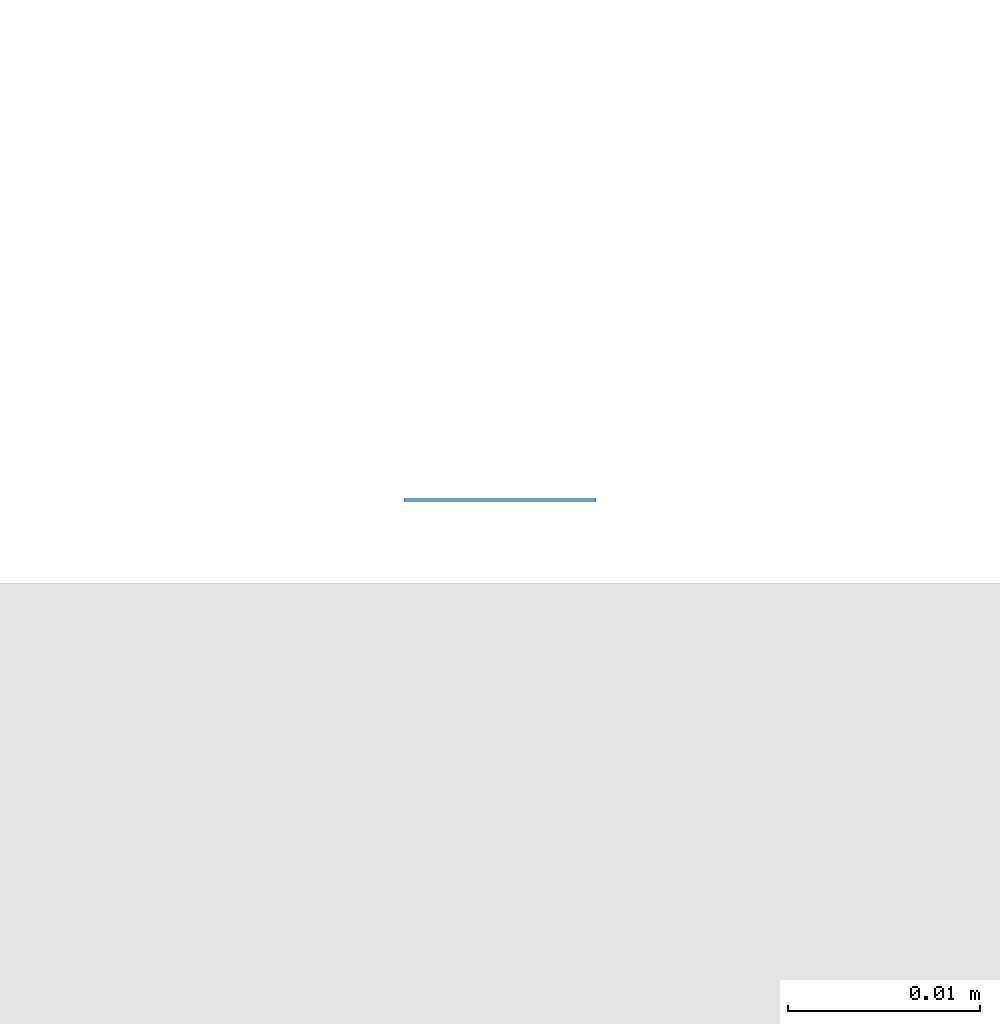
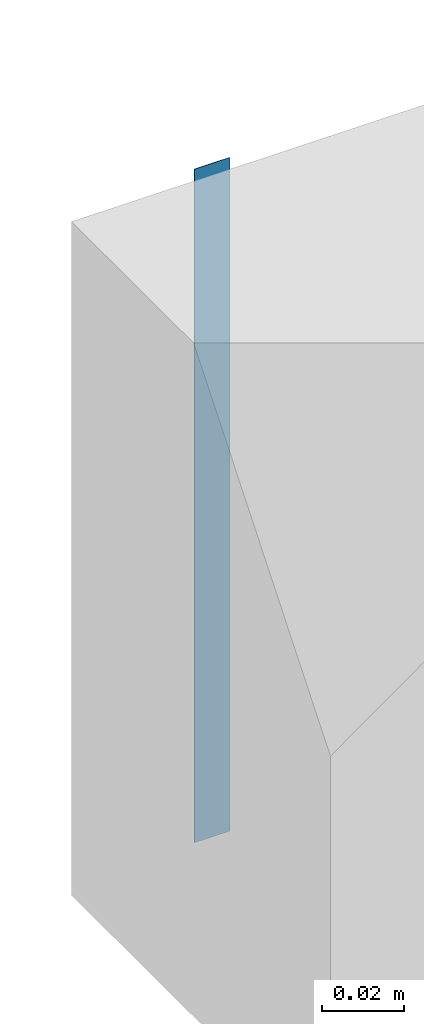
# One storey, part 1 of 3: 1 wall.
"""IFC2X3 building model written with IfcOpenShell, lengths in millimetres."""

import ifcopenshell
import ifcopenshell.guid

model = None  # the IFC model being written
_history = None  # IfcOwnerHistory: only IFC2X3 demands one
_inside = {}  # id of a spatial element -> (the spatial element, [elements in it])
_under = {}  # id of a project, library or spatial element -> (it, [spatial elements below it])
_declared = {}  # id of a project -> (the project, [libraries it declares])
_typed = {}  # id of a type object -> (the type object, [elements of that type])
_made_of = {}  # id of a material, layer set ... -> (it, [elements and type objects made of it])


def new_model(schema):
    """Start an empty IFC model of exactly this schema.

    Asked for "IFC4X3", IfcOpenShell would pick the latest addendum, in which some entities
    have other attributes; the version numbers below select the first issue.
    IFC2X3 requires an IfcOwnerHistory on every rooted entity: one is made here for all.
    """
    global model, _history
    if schema == "IFC4X3":
        model = ifcopenshell.file(schema_version=(4, 3, 0, 0))
    else:
        model = ifcopenshell.file(schema=schema)
    _inside.clear()
    _under.clear()
    _declared.clear()
    _typed.clear()
    _made_of.clear()
    _history = None
    if model.schema == "IFC2X3":
        org = make("IfcOrganization", Name="unknown")
        user = make(
            "IfcPersonAndOrganization",
            ThePerson=make("IfcPerson", FamilyName="unknown"),
            TheOrganization=org,
        )
        app = make(
            "IfcApplication",
            ApplicationDeveloper=org,
            Version="unknown",
            ApplicationFullName="unknown",
            ApplicationIdentifier="unknown",
        )
        _history = make(
            "IfcOwnerHistory",
            OwningUser=user,
            OwningApplication=app,
            ChangeAction="ADDED",
            CreationDate=0,
        )
    return model


def make(cls, **values):
    """One entity of the class cls with the attributes given. An attribute that is None is left unset."""
    return model.create_entity(
        cls, **{name: value for name, value in values.items() if value is not None}
    )


def entity(cls, *values):
    """Any entity or typed value of the class cls, its attributes in the order of the schema. None: left unset."""
    e = model.create_entity(cls)
    for i, value in enumerate(values):
        if value is not None:
            e[i] = value
    return e


def rooted(cls, **values):
    """An entity with a GlobalId (a new one), such as an element, a storey or a relation."""
    return make(cls, GlobalId=ifcopenshell.guid.new(), OwnerHistory=_history, **values)


def si_unit(unit_type, name, prefix=None):
    """IfcSIUnit, for example si_unit("LENGTHUNIT", "METRE", prefix="MILLI")."""
    return make("IfcSIUnit", UnitType=unit_type, Prefix=prefix, Name=name)


def converted_unit(unit_type, name, factor, base, dimensions=None, offset=None):
    """IfcConversionBasedUnit, such as the inch: factor (a typed value) times the base unit."""
    return make(
        "IfcConversionBasedUnit"
        if offset is None
        else "IfcConversionBasedUnitWithOffset",
        ConversionOffset=offset,
        Dimensions=None
        if dimensions is None
        else entity("IfcDimensionalExponents", *dimensions),
        UnitType=unit_type,
        Name=name,
        ConversionFactor=make(
            "IfcMeasureWithUnit", ValueComponent=factor, UnitComponent=base
        ),
    )


def derived_unit(unit_type, elements):
    """IfcDerivedUnit: a product of units, each with its exponent."""
    return make(
        "IfcDerivedUnit",
        Elements=[
            make("IfcDerivedUnitElement", Unit=unit, Exponent=power)
            for unit, power in elements
        ],
        UnitType=unit_type,
    )


def assignment(units):
    """IfcUnitAssignment: the units of a project."""
    return None if units is None else make("IfcUnitAssignment", Units=units)


def point(xyz):
    """IfcCartesianPoint."""
    return None if xyz is None else make("IfcCartesianPoint", Coordinates=xyz)


def direction(xyz):
    """IfcDirection."""
    return None if xyz is None else make("IfcDirection", DirectionRatios=xyz)


def frame(location, z_axis=None, x_axis=None):
    """IfcAxis2Placement3D, a coordinate frame: its origin and axes. An axis left out is left unset."""
    return make(
        "IfcAxis2Placement3D",
        Location=point(location),
        Axis=direction(z_axis),
        RefDirection=direction(x_axis),
    )


def frame_2d(location, x_axis=None):
    """IfcAxis2Placement2D, a coordinate frame in the plane: its origin and x axis."""
    return make(
        "IfcAxis2Placement2D", Location=point(location), RefDirection=direction(x_axis)
    )


def origin_with_axes():
    """The frame at (0, 0, 0) with the z axis (0, 0, 1) and the x axis (1, 0, 0) written out."""
    return frame((0.0, 0.0, 0.0), z_axis=(0.0, 0.0, 1.0), x_axis=(1.0, 0.0, 0.0))


def place(relative_to, where):
    """IfcLocalPlacement: puts the frame where relative to a parent placement (None: the world)."""
    return make(
        "IfcLocalPlacement", PlacementRelTo=relative_to, RelativePlacement=where
    )


def context(
    kind, dimensions, precision=None, world=None, true_north=None, identifier=None
):
    """IfcGeometricRepresentationContext, for example the 3D "Model" context."""
    return make(
        "IfcGeometricRepresentationContext",
        ContextIdentifier=identifier,
        ContextType=kind,
        CoordinateSpaceDimension=dimensions,
        Precision=precision,
        WorldCoordinateSystem=world,
        TrueNorth=true_north,
    )


def subcontext(parent, identifier, kind, view, scale=None):
    """IfcGeometricRepresentationSubContext, for example "Body" below "Model"."""
    return make(
        "IfcGeometricRepresentationSubContext",
        ContextIdentifier=identifier,
        ContextType=kind,
        ParentContext=parent,
        TargetScale=scale,
        TargetView=view,
    )


def project(units=None, contexts=None):
    """IfcProject with its units and contexts."""
    return rooted(
        "IfcProject",
        Name="project",
        RepresentationContexts=contexts,
        UnitsInContext=assignment(units),
    )


def spatial(cls, under=None, at=None, **own):
    """A site, building, storey or space (cls), placed at a placement, below another one or the project."""
    s = rooted(cls, ObjectPlacement=at, **own)
    if under is not None:
        _under.setdefault(under.id(), (under, []))[1].append(s)
    return s


def profile(cls, at=None, kind="AREA", **sizes):
    """A parametric profile (cls). Its sizes go by their IFC names, for example OverallWidth=200.0."""
    return make(cls, ProfileType=kind, Position=at, **sizes)


def rectangle(**sizes):
    """IfcRectangleProfileDef."""
    return profile("IfcRectangleProfileDef", **sizes)


def extrude(swept, where, along, depth):
    """IfcExtrudedAreaSolid: the profile swept, set in the frame where, extruded along a direction by depth."""
    return make(
        "IfcExtrudedAreaSolid",
        SweptArea=swept,
        Position=where,
        ExtrudedDirection=direction(along),
        Depth=depth,
    )


def shape(context_of_items, identifier, shape_type, items):
    """IfcShapeRepresentation: the items that make up one representation, for example the "Body"."""
    return make(
        "IfcShapeRepresentation",
        ContextOfItems=context_of_items,
        RepresentationIdentifier=identifier,
        RepresentationType=shape_type,
        Items=items,
    )


def material(Name=None, Category=None):
    """IfcMaterial."""
    return make("IfcMaterial", Name=Name, Category=Category)


def layer(
    of_material, thickness, ventilated=None, Name=None, Category=None, Priority=None
):
    """IfcMaterialLayer: one layer of a wall or slab, of a material (None: an air gap)."""
    return make(
        "IfcMaterialLayer",
        Material=of_material,
        LayerThickness=thickness,
        IsVentilated=ventilated,
        Name=Name,
        Category=Category,
        Priority=Priority,
    )


def layer_set(layers, Name=None):
    """IfcMaterialLayerSet."""
    return make("IfcMaterialLayerSet", MaterialLayers=layers, LayerSetName=Name)


def layer_usage(for_layer_set, set_direction, sense, offset, extent=None):
    """IfcMaterialLayerSetUsage: how a layer set lies in its element."""
    return make(
        "IfcMaterialLayerSetUsage",
        ForLayerSet=for_layer_set,
        LayerSetDirection=set_direction,
        DirectionSense=sense,
        OffsetFromReferenceLine=offset,
        ReferenceExtent=extent,
    )


def made_of(thing, what):
    """Note that an element or type object is made of a material, layer set ...; save() writes the relation."""
    if what is not None:
        _made_of.setdefault(what.id(), (what, []))[1].append(thing)
    return thing


def type_object(cls, material=None, **own):
    """A type object (cls), such as IfcWallType, which elements share."""
    return made_of(rooted(cls, **own), material)


def element(
    cls,
    number,
    at=None,
    inside=None,
    cuts=None,
    type_object=None,
    material=None,
    context=None,
    identifier="Body",
    shape_type=None,
    held_by="IfcProductDefinitionShape",
    body=None,
    shapes=None,
    **own,
):
    """One element of the class cls, such as IfcWall. Its Tag is "e" and its number.

    at: its placement. inside: the storey or other place that contains it. cuts: it is an
    opening in that element (IfcRelVoidsElement). A single representation is given by context,
    identifier, shape_type and body (its items); several are given by shapes. held_by: the class
    of the entity that holds the representations. save() writes the other relations.
    """
    e = rooted(cls, Tag="e%d" % number, ObjectPlacement=at, **own)
    if body is not None:
        shapes = [shape(context, identifier, shape_type, body)]
    if shapes is not None:
        e.Representation = make(held_by, Representations=shapes)
    if inside is not None:
        _inside.setdefault(inside.id(), (inside, []))[1].append(e)
    if cuts is not None:
        rooted(
            "IfcRelVoidsElement", RelatingBuildingElement=cuts, RelatedOpeningElement=e
        )
    if type_object is not None:
        _typed.setdefault(type_object.id(), (type_object, []))[1].append(e)
    return made_of(e, material)


def aggregate(whole, parts):
    """IfcRelAggregates: a whole, such as a stair, and the parts it consists of."""
    return rooted("IfcRelAggregates", RelatingObject=whole, RelatedObjects=parts)


def save(model, path):
    """Write the relations noted so far, then the file.

    IfcRelAggregates (storeys below a building ...), IfcRelContainedInSpatialStructure (elements
    in a storey), IfcRelDefinesByType, IfcRelAssociatesMaterial and IfcRelDeclares: one each for
    every whole, place, type object, material and project.
    """
    for whole, parts in _under.values():
        aggregate(whole, parts)
    for where, things in _inside.values():
        rooted(
            "IfcRelContainedInSpatialStructure",
            RelatedElements=things,
            RelatingStructure=where,
        )
    for kind, things in _typed.values():
        rooted("IfcRelDefinesByType", RelatedObjects=things, RelatingType=kind)
    for what, things in _made_of.values():
        rooted("IfcRelAssociatesMaterial", RelatedObjects=things, RelatingMaterial=what)
    for by, libraries in _declared.values():
        rooted("IfcRelDeclares", RelatingContext=by, RelatedDefinitions=libraries)
    model.write(path)


model = new_model("IFC2X3")

# Units and contexts
model_context = context("Model", 3, precision=0.01, world=frame((0.0, 4.29681676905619e-09, 0.0)), true_north=direction((4.01073788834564e-13, 1.0)))
plan_context = context("Plan", 3, precision=0.01, world=frame((0.0, 4.29681676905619e-09, 0.0)), true_north=direction((4.01073788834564e-13, 1.0)))
body_context = subcontext(model_context, "Body", "Model", "MODEL_VIEW")
ifc_project = project(units=[converted_unit("PLANEANGLEUNIT", "DEGREE", entity("IfcPositiveLengthMeasure", 0.0174532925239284), si_unit("PLANEANGLEUNIT", "RADIAN"), dimensions=[0, 0, 0, 0, 0, 0, 0]), si_unit("AREAUNIT", "SQUARE_METRE"), si_unit("LENGTHUNIT", "METRE", prefix="MILLI"), si_unit("MASSUNIT", "GRAM", prefix="KILO"), si_unit("POWERUNIT", "WATT"), si_unit("PRESSUREUNIT", "PASCAL", prefix="KILO"), si_unit("FORCEUNIT", "NEWTON", prefix="KILO"), si_unit("ELECTRICVOLTAGEUNIT", "VOLT"), si_unit("ELECTRICCURRENTUNIT", "AMPERE"), si_unit("THERMODYNAMICTEMPERATUREUNIT", "DEGREE_CELSIUS"), si_unit("TIMEUNIT", "SECOND"), si_unit("VOLUMEUNIT", "CUBIC_METRE"), derived_unit("LINEARVELOCITYUNIT", [(si_unit("LENGTHUNIT", "METRE"), 1), (si_unit("TIMEUNIT", "SECOND"), -1)]), derived_unit("VOLUMETRICFLOWRATEUNIT", [(si_unit("VOLUMEUNIT", "CUBIC_METRE"), 1), (si_unit("TIMEUNIT", "SECOND"), -1)]), derived_unit("THERMALTRANSMITTANCEUNIT", [(si_unit("POWERUNIT", "WATT"), 1), (si_unit("THERMODYNAMICTEMPERATUREUNIT", "KELVIN"), -1), (si_unit("AREAUNIT", "SQUARE_METRE"), -1)]), derived_unit("SOUNDPRESSUREUNIT", [(si_unit("PRESSUREUNIT", "PASCAL"), 1)])], contexts=[model_context, plan_context])

# Site, building, storey
site_placement = place(None, origin_with_axes())
site = spatial("IfcSite", under=ifc_project, at=site_placement, Name="ENGM", CompositionType="ELEMENT")
building_placement = place(site_placement, origin_with_axes())
building = spatial("IfcBuilding", under=site, at=building_placement, Name="TS", CompositionType="ELEMENT")
storey_placement = place(building_placement, frame((0.0, 0.0, 213700.0), z_axis=(0.0, 0.0, 1.0), x_axis=(1.0, 0.0, 0.0)))
storey = spatial("IfcBuildingStorey", under=building, at=storey_placement, Name="Nivå G - 2,0m", CompositionType="ELEMENT", Elevation=213700.0)

# Wall
ifc_material = material(Name="T2 Stål Galvanisert")
ifc_layer = layer(ifc_material, 10.0)
ifc_layer_set = layer_set([ifc_layer], Name="Basic Wall:B200 - Metallplate 10mm")
ifc_layer_usage = layer_usage(ifc_layer_set, "AXIS2", "NEGATIVE", 5.0)
wall_type = type_object("IfcWallType", Name="Basic Wall:B200 - Metallplate 10mm", PredefinedType="STANDARD", material=ifc_layer_set)
wall_placement = place(storey_placement, frame((714479.987500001, 434706.26473214, 0.0), z_axis=(0.0, 0.0, 1.0), x_axis=(0.0, 1.0, 0.0)))
element("IfcWallStandardCase", 1, at=wall_placement, inside=storey, type_object=wall_type, material=ifc_layer_usage, Name="Basic Wall:B200 - Metallplate 10mm", ObjectType="Basic Wall:B200 - Metallplate 10mm", context=body_context, shape_type="SweptSolid", body=[
    extrude(rectangle(XDim=10.0000000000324, YDim=0.179018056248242, at=frame_2d((-6.93032298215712e-11, 0.0), x_axis=(1.0, 0.0))), frame((0.089509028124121, 0.0, 0.0), z_axis=(0.0, 0.0, 1.0), x_axis=(0.0, 1.0, 0.0)), (0.0, 0.0, 1.0), 200.000000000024),
])

save(model, "model.ifc")
